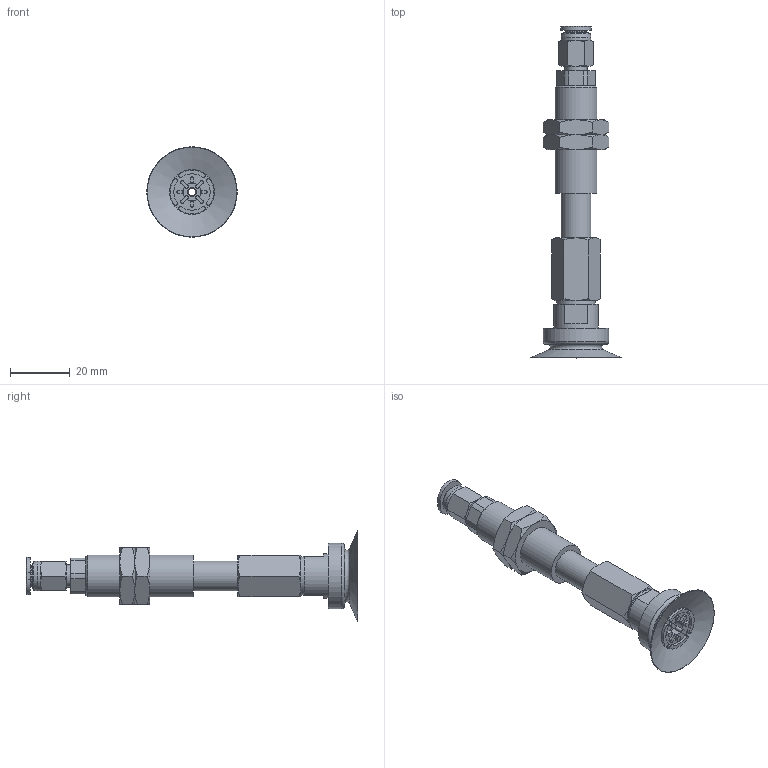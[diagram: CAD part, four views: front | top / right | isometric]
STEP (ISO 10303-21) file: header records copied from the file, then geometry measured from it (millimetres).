
FILE_DESCRIPTION(('STEP AP203'),'1');
FILE_NAME('-O.stp','2025-08-26T09:03:58',(' '),(' '),'Spatial InterOp 3D',' ',' ');
FILE_SCHEMA(('CONFIG_CONTROL_DESIGN'));
Length unit declared in the file: millimetre
Products named in the file (7): BNABPATS-30-15-※-O; ADAPTER; NAPATS-30B-15--M; NAPATS-30B-15--F; Nut-25-S; PC-C_06-M5; BPAG-30-※
Assembly tree (7 placements, depth 2):
  BNABPATS-30-15-※-O
    ADAPTER
    NAPATS-30B-15--M
    NAPATS-30B-15--F
    Nut-25-S  x2
    PC-C_06-M5
    BPAG-30-※
Bounding box: 30.3 x 111.18 x 30.3 mm (x, y, z)
Volume: 16135.4 mm3; surface area: 13026.5 mm2
Topology: 6 solids, 9 shells, 233 faces, 525 edges, 328 vertices
Faces by surface type: plane 94, cylinder 66, cone 62, bspline 4, torus 4, revolution 3
Full cylindrical faces by diameter (mm): 3 x3, 4 x2, 4.134 x1, 4.6 x1, 4.917 x1, 5 x1, 6 x1, 7 x1, 7.4 x1, 8.2 x1, 10 x3, 12.917 x2, 13 x1, 14 x1, 15 x1, 22 x1
Entity records: 6507 total; most frequent: CARTESIAN_POINT 1631, DIRECTION 974, ORIENTED_EDGE 862, EDGE_CURVE 433, AXIS2_PLACEMENT_3D 406, VERTEX_POINT 295, EDGE_LOOP 280, CIRCLE 196
